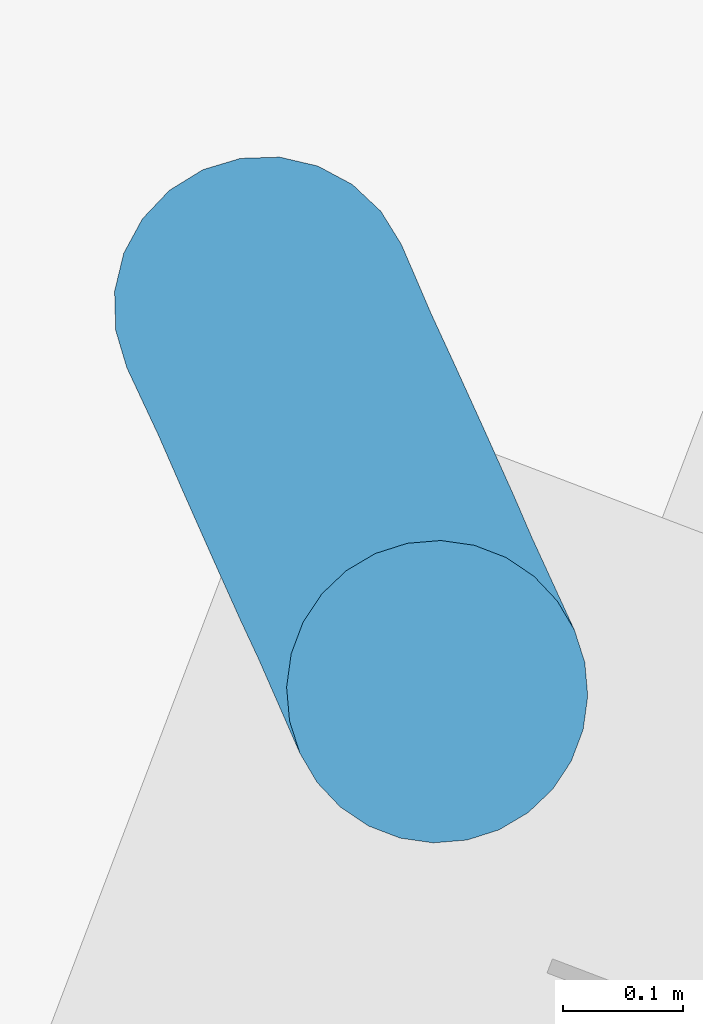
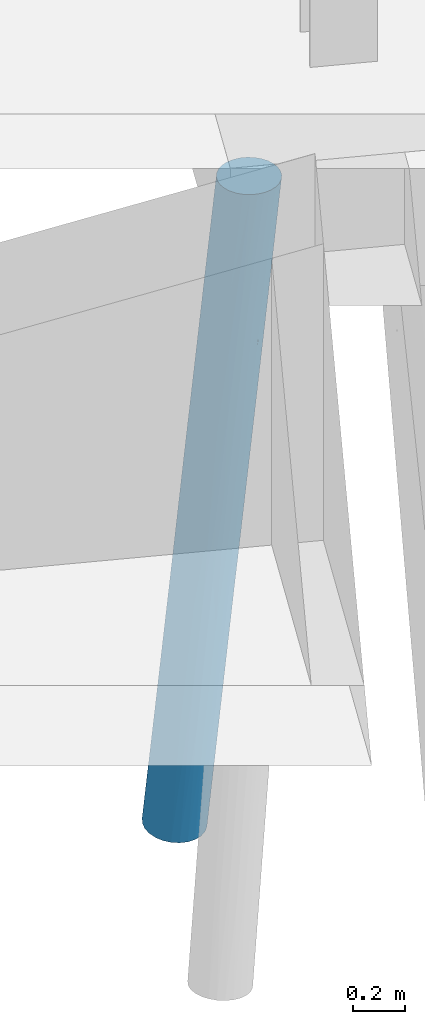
# One storey, part 12 of 46: 1 pile.
"""IFC2X3 building model written with IfcOpenShell, lengths in millimetres."""

from ifc_helpers import new_model, entity, si_unit, converted_unit, derived_unit, direction, frame, origin, place, context, subcontext, project, spatial, faceted_brep, source, transform, mapped, material, type_object, type_shapes, element, save


model = new_model("IFC2X3")

# Units and contexts
model_context = context("Model", 3, precision=0.01, world=origin(), true_north=direction((6.123233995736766e-17, 1.0)))
body_context = subcontext(model_context, "Body", "Model", "MODEL_VIEW")
ifc_project = project(units=[si_unit("LENGTHUNIT", "METRE", prefix="MILLI"), converted_unit("PLANEANGLEUNIT", "DEGREE", entity("IfcPlaneAngleMeasure", 0.017453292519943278), si_unit("PLANEANGLEUNIT", "RADIAN"), dimensions=[0, 0, 0, 0, 0, 0, 0]), si_unit("AREAUNIT", "SQUARE_METRE"), derived_unit("THERMALTRANSMITTANCEUNIT", [(si_unit("MASSUNIT", "GRAM", prefix="KILO"), 1), (si_unit("THERMODYNAMICTEMPERATUREUNIT", "KELVIN"), -1), (si_unit("TIMEUNIT", "SECOND"), -3)])], contexts=[model_context])

# Site, building, storey
site_placement = place(None, frame((-72937.88054949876, 11621.45624098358, 0.0), z_axis=(0.0, 0.0, 1.0), x_axis=(0.9346418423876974, -0.35559053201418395, 0.0)))
site = spatial("IfcSite", under=ifc_project, at=site_placement, Name="Default", CompositionType="ELEMENT")
building_placement = place(site_placement, origin())
building = spatial("IfcBuilding", under=site, at=building_placement, CompositionType="ELEMENT")
storey_placement = place(building_placement, origin())
storey = spatial("IfcBuildingStorey", under=building, at=storey_placement, Name="00 begane grond", CompositionType="ELEMENT", Elevation=0.0)

# Pile
ifc_material = material(Name="beton_gewapend_prefab-element_c45/55")
type_product = type_object("IfcTypeProduct", Name="Type 01", material=ifc_material)
shared_shape = source(origin(), body_context, "Body", "Brep", [
    faceted_brep([(-21.492869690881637, -34.07967924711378, -2142.478153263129), (41.770052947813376, 0.0, -1615.9926657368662), (50.02983679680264, -41.219149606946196, -1478.3429510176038), (-120.39371842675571, -27.815116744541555, -840.0), (-209.76851175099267, 0.0, -1615.9934634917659), (-196.5141812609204, -41.35907440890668, -1560.4595682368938), (-88.87736384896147, -91.39060439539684, -2432.143714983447), (-29.01608810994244, -89.9027707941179, -1907.5825387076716), (-105.46135978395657, -105.60554685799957, -2414.744852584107), (115.53639022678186, -54.235467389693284, -840.0), (100.55257203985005, -77.93622523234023, -840.0), (44.04069234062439, -66.4881713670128, -1422.150587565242), (-241.29781855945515, -62.499999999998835, -4011.9545633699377), (-228.8866429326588, -32.35238063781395, -4013.333582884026), (-181.63351961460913, -47.83542906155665, -3540.4622999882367), (127.99146025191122, 0.0, -840.0), (124.838162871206, -27.815116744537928, -840.0), (56.79144948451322, -112.62110848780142, -840.0), (-1.0422673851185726, -115.29700921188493, -1306.634534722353), (80.6380595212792, -97.7289353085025, -840.0), (-148.00042706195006, -121.55050259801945, -1927.9224619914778), (-119.59016639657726, -124.7753227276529, -1868.475336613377), (-82.66188090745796, -124.23733970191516, -1479.1096584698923), (2.222222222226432, -125.0, -840.0), (-25.764066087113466, -121.86598902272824, -840.0), (35.238837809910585, -88.30507823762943, -1343.9943162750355), (-38.428481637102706, -123.46402257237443, -1382.7576650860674), (30.208510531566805, -121.86598902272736, -840.0), (-105.46067851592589, -124.17311504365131, -1939.1271630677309), (-121.64165871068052, -118.88184081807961, -2304.5646505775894), (-59.29822656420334, -117.91120533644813, -1769.4495348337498), (-224.65342205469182, 0.0, -4013.803940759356), (-181.5427184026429, 0.0, -3625.8076078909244), (-187.86059930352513, -76.09517863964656, -3448.7603995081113), (-111.16783038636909, -79.40373738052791, -2734.720867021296), (-186.42266103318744, -99.1691675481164, -3226.87509877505), (-381.04339378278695, -120.74072828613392, -3996.4272772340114), (-348.8888888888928, -125.0, -4000.0), (-294.25946310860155, -123.9306076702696, -3360.589550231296), (-119.53291308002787, -47.835429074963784, -2981.55684112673), (-105.13946974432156, -22.11026756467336, -2920.330251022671), (-71.50265177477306, -37.61355729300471, -2582.985799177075), (-160.26870491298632, -23.53094104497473, -3414.1045295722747), (-286.7711554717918, -108.25317547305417, -4006.901970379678), (-238.88036705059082, -115.48494156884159, -3443.09153660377), (-261.04114782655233, -88.38834764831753, -4009.7608601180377), (-316.7343839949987, -120.74072828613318, -4003.5727227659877), (-84.00174733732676, -60.02171841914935, -2608.908596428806), (-61.65923548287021, -74.64816535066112, -2322.8523974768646), (-173.2739820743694, -115.31995815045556, -2856.223431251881), (-151.97718420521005, -123.99260475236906, -2371.2114813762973), (-123.54701580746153, 0.0, -840.0), (-250.82857575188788, -22.617884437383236, -2004.2180489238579), (-295.9900076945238, 0.0, -2391.986926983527), (-52.347005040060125, -112.6211084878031, -840.0), (-76.19361507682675, -97.72893530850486, -840.0), (-107.44397040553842, -105.89787173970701, -1225.6035634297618), (-281.4812245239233, -123.93060767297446, -3541.076638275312), (-109.06614769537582, -117.5733672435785, -1457.2474766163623), (-111.0919457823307, -54.235467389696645, -840.0), (-15.85514051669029, -105.72630914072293, -1606.5585830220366), (-146.68659472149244, -88.47759853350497, -1380.5978408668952), (-158.7756678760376, -105.96661342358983, -1688.5825591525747), (-348.5966640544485, -22.310072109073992, -2883.621631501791), (-384.5571817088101, 0.0, -3189.0914931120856), (-404.9818286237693, -23.95962394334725, -3393.9013620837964), (-416.2874807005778, -47.83542904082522, -3560.826702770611), (-468.89113484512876, -32.35238063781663, -3986.6664171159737), (-456.47995921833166, -62.500000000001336, -3988.0454366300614), (-337.6622645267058, -115.48494156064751, -3465.7921474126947), (-411.00662230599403, -108.25317547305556, -3993.0980296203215), (-255.6918544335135, -84.13968982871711, -2324.129304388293), (-241.96823570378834, -100.09571921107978, -2359.7174741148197), (-204.57839676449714, -89.69967503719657, -1912.8684599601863), (-96.10812759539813, -77.93622523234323, -840.0), (-436.73662995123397, -88.38834764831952, -3990.239139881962), (-377.92930595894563, -99.16916753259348, -3572.292603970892), (-206.96183482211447, -60.377923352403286, -1731.5361763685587), (-358.429549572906, -47.83542903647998, -3040.1053226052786), (-296.17437932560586, -43.53585544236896, -2464.518236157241), (-379.61635653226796, -76.09517861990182, -3378.5322028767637), (-430.0136077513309, 0.0, -3598.199327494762), (-306.35511538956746, -77.61365432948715, -2729.9013330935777), (-213.4617402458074, -118.14633713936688, -2411.4959163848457), (-159.2186646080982, -65.41382269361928, -1328.4086999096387), (-67.97340634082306, -109.92592992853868, -2010.6352011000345), (-179.43548008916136, -124.76102802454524, -2404.9604566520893), (-13.219750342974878, -66.34050229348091, -1938.3332116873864), (-236.17409644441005, -124.51562049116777, -2886.015168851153), (-268.30597333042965, -110.23172722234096, -2741.026078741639), (-270.10864031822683, -119.49229851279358, -2958.6820679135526), (-320.7170568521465, -99.16916752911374, -3057.382361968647), (-473.12435572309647, 0.0, -3986.1960592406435), (-138.91569201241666, -99.37675608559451, -2796.855638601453), (-220.46267944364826, -123.93060767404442, -2991.9097324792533), (-44.45135435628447, 0.0, -2391.9853314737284), (-247.15908292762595, -66.69543969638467, -2127.0964328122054), (-134.55238820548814, 0.0, -3202.894636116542), (-89.50217198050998, 0.0, -2797.4426900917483), (-303.09738986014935, -21.900839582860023, -2473.4623287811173), (-340.273594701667, 0.0, -2790.539210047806), (-246.59414544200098, -45.75852255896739, -2025.9931784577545), (124.83816287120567, 27.815116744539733, -840.0), (115.53639022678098, 54.23546738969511, -840.0), (100.55257203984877, 77.93622523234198, -840.0), (80.63805952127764, 97.72893530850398, -840.0), (56.7914494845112, 112.62110848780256, -840.0), (30.20851053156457, 121.86598902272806, -840.0), (2.222222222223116, 125.0, -840.0), (-25.764066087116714, 121.86598902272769, -840.0), (-52.3470050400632, 112.62110848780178, -840.0), (-76.19361507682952, 97.72893530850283, -840.0), (-96.1081275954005, 77.93622523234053, -840.0), (-111.09194578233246, 54.23546738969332, -840.0), (-120.39371842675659, 27.815116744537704, -840.0), (-213.46174017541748, 118.14633716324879, -2411.4959163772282), (-268.3059732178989, 110.23172722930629, -2741.0260778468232), (-241.96823566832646, 100.09571920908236, -2359.717473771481), (-187.14229973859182, 67.59575846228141, -1592.137482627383), (-196.5141812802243, 41.359074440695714, -1560.4595685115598), (-82.66188086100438, 124.23733970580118, -1479.1096583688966), (-29.016087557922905, 89.90277069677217, -1907.5825346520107), (35.23883807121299, 88.30507821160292, -1343.9943141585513), (-13.219750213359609, 66.3405022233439, -1938.3332109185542), (-109.06614766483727, 117.57336725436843, -1457.2474766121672), (-381.04339378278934, 120.74072828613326, -3996.4272772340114), (-337.6622645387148, 115.48494156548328, -3465.7921476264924), (-294.2594631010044, 123.93060767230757, -3360.5895503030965), (-377.9293059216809, 99.16916753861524, -3572.292603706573), (-379.61635651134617, 76.09517863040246, -3378.53220276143), (-320.717056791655, 99.16916754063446, -3057.382361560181), (-286.77115547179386, 108.25317547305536, -4006.901970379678), (-238.88036707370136, 115.48494156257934, -3443.0915369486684), (-186.42266103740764, 99.16916753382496, -3226.875098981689), (-241.29781855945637, 62.50000000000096, -4011.9545633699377), (-181.63351956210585, 47.835429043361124, -3540.4622995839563), (-228.88664293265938, 32.352380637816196, -4013.333582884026), (-107.44397039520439, 105.89787175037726, -1225.6035634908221), (-38.428481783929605, 123.46402262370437, -1382.7576634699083), (-468.89113484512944, 32.35238063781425, -3986.6664171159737), (-173.2739821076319, 115.31995832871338, -2856.223427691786), (-138.91569233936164, 99.37675620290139, -2796.855640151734), (-160.26870486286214, 23.530941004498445, -3414.104529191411), (-261.041147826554, 88.38834764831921, -4009.7608601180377), (-187.86059935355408, 76.09517862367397, -3448.760400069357), (-306.35511542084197, 77.61365434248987, -2729.9013334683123), (-348.8888888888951, 125.0, -4000.0), (-456.47995921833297, 62.49999999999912, -3988.0454366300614), (-416.2874806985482, 47.83542904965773, -3560.826702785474), (-411.0066223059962, 108.25317547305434, -3993.0980296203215), (-436.7366299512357, 88.38834764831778, -3990.239139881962), (-84.00174724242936, 60.02171839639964, -2608.9085956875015), (-21.492869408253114, 34.07967918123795, -2142.4781508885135), (-71.50265159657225, 37.613557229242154, -2582.9857977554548), (-220.46267940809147, 123.93060767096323, -2991.909732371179), (-281.48122449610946, 123.9306076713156, -3541.07663813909), (-148.0004270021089, 121.5505026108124, -1927.922461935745), (-158.7756678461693, 105.9666134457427, -1688.5825592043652), (-15.85514048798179, 105.72630911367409, -1606.5585831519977), (-59.298225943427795, 117.91120535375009, -1769.449528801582), (-1.0422669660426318, 115.29700910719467, -1306.634533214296), (-270.1086403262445, 119.49229851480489, -2958.682068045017), (50.02983688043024, 41.21914955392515, -1478.342950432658), (-146.6865947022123, 88.47759855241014, -1380.5978408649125), (-358.42954957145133, 47.83542905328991, -3040.1053226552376), (-348.59666404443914, 22.310072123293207, -2883.6216314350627), (-296.1743793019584, 43.535855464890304, -2464.5182360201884), (57.21126448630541, 65.80573689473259, -1307.4694469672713), (-121.64165783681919, 118.88184074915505, -2304.564644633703), (-67.97340649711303, 109.92593000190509, -2010.6352012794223), (-105.13946990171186, 22.110267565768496, -2920.330252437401), (-179.4354799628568, 124.7610280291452, -2404.960456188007), (-316.73438399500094, 120.7407282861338, -4003.5727227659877), (-119.53291301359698, 47.8354290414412, -2981.5568406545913), (-250.82857577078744, 22.617884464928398, -2004.2180491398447), (-404.98182862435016, 23.959623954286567, -3393.9013621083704), (-61.65923550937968, 74.64816548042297, -2322.852396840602), (-243.17628094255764, 45.971171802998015, -1995.991919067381), (-105.46135971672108, 105.60554680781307, -2414.7448526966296), (-111.16783063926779, 79.40373735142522, -2734.7208695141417), (-119.59016630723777, 124.7753227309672, -1868.4753363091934), (-236.17409637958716, 124.515620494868, -2886.0151686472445), (-204.5783966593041, 89.69967507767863, -1912.8684593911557), (-247.1590829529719, 66.69543974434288, -2127.0964333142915), (-88.87736442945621, 91.39060438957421, -2432.1437202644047), (-255.69185439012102, 84.13968979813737, -2324.1293037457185), (-168.1781585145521, 123.85607816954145, -2526.387901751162), (-105.46067843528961, 124.17311503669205, -1939.1271628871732), (-303.0973898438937, 21.90083960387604, -2473.4623286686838)], [[[0, 1, 2]], [[3, 4, 5]], [[6, 7, 8]], [[9, 10, 11]], [[12, 13, 14]], [[1, 15, 16]], [[17, 18, 19]], [[20, 21, 22]], [[22, 23, 24]], [[10, 19, 25]], [[26, 18, 27]], [[23, 22, 26]], [[28, 29, 30]], [[13, 31, 32]], [[33, 34, 35]], [[36, 37, 38]], [[39, 40, 41]], [[14, 42, 39]], [[43, 35, 44]], [[33, 35, 45]], [[43, 44, 46]], [[47, 48, 34]], [[49, 29, 50]], [[3, 51, 4]], [[30, 26, 28]], [[52, 4, 53]], [[54, 55, 56]], [[57, 38, 37]], [[58, 24, 54]], [[57, 37, 46]], [[3, 5, 59]], [[2, 16, 9]], [[4, 52, 5]], [[25, 60, 7]], [[45, 35, 43]], [[61, 62, 56]], [[63, 64, 65]], [[66, 67, 68]], [[69, 36, 38]], [[36, 69, 70]], [[71, 72, 73]], [[61, 55, 74]], [[75, 70, 76]], [[61, 77, 73]], [[63, 78, 79]], [[75, 76, 80]], [[64, 81, 65]], [[78, 80, 82]], [[75, 80, 68]], [[72, 83, 62]], [[5, 84, 59]], [[29, 8, 85]], [[11, 10, 25]], [[28, 21, 86]], [[45, 12, 33]], [[49, 44, 35]], [[58, 54, 56]], [[22, 58, 20]], [[0, 2, 87]], [[1, 16, 2]], [[88, 86, 83]], [[39, 42, 40]], [[89, 69, 90]], [[74, 59, 84]], [[62, 73, 72]], [[82, 80, 91]], [[66, 80, 78]], [[14, 33, 12]], [[67, 81, 92]], [[34, 33, 39]], [[39, 41, 47]], [[34, 6, 93]], [[35, 93, 49]], [[57, 44, 94]], [[90, 69, 38]], [[76, 69, 91]], [[34, 39, 47]], [[1, 0, 95]], [[72, 82, 91]], [[82, 96, 79]], [[72, 91, 89]], [[62, 61, 73]], [[32, 42, 13]], [[33, 14, 39]], [[44, 57, 46]], [[38, 57, 94]], [[42, 32, 97]], [[42, 97, 40]], [[13, 42, 14]], [[40, 97, 98, 95]], [[41, 95, 0]], [[61, 56, 55]], [[58, 56, 62]], [[20, 62, 83]], [[24, 58, 22]], [[62, 20, 58]], [[20, 83, 86]], [[83, 90, 88]], [[28, 50, 29]], [[90, 38, 88]], [[89, 90, 83]], [[95, 41, 40]], [[47, 0, 87]], [[0, 47, 41]], [[48, 47, 87]], [[7, 48, 87]], [[6, 34, 48]], [[87, 2, 11]], [[7, 60, 85]], [[60, 25, 19]], [[11, 7, 87]], [[7, 6, 48]], [[93, 6, 8]], [[93, 8, 49]], [[34, 93, 35]], [[29, 49, 8]], [[94, 44, 49]], [[30, 85, 60]], [[28, 86, 50]], [[18, 30, 60]], [[18, 26, 30]], [[23, 26, 27]], [[21, 26, 22]], [[19, 18, 60]], [[18, 17, 27]], [[77, 61, 84]], [[71, 96, 82]], [[72, 89, 83]], [[69, 89, 91]], [[38, 94, 88]], [[50, 88, 94]], [[80, 66, 68]], [[65, 67, 66]], [[78, 63, 65]], [[67, 65, 81]], [[78, 65, 66]], [[78, 82, 79]], [[99, 100, 63]], [[79, 101, 52]], [[99, 63, 79]], [[69, 76, 70]], [[80, 76, 91]], [[96, 71, 73]], [[82, 72, 71]], [[29, 85, 30]], [[7, 85, 8]], [[99, 52, 53]], [[101, 79, 96]], [[77, 84, 5]], [[74, 84, 61]], [[86, 21, 20]], [[26, 21, 28]], [[9, 11, 2]], [[7, 11, 25]], [[88, 50, 86]], [[49, 50, 94]], [[52, 99, 79]], [[100, 64, 63]], [[100, 99, 53]], [[77, 101, 96]], [[5, 52, 101]], [[101, 77, 5]], [[73, 77, 96]], [[24, 23, 27, 17, 19, 10, 9, 16, 15, 102, 103, 104, 105, 106, 107, 108, 109, 110, 111, 112, 113, 114, 51, 3, 59, 74, 55, 54]], [[51, 114, 4]], [[115, 116, 117]], [[118, 113, 112]], [[119, 114, 113]], [[120, 109, 108]], [[121, 122, 123]], [[120, 124, 109]], [[125, 126, 127]], [[128, 129, 130]], [[131, 132, 133]], [[134, 135, 136]], [[137, 111, 110]], [[138, 108, 107]], [[139, 92, 81]], [[140, 141, 133]], [[142, 97, 32]], [[143, 133, 144]], [[130, 129, 145]], [[146, 125, 127]], [[147, 139, 148]], [[149, 150, 128]], [[151, 152, 153]], [[154, 155, 127]], [[124, 156, 157]], [[158, 159, 160]], [[4, 114, 119]], [[160, 107, 106]], [[161, 127, 126]], [[103, 102, 162]], [[158, 160, 105]], [[111, 137, 163]], [[164, 165, 166]], [[105, 104, 122]], [[102, 15, 1]], [[167, 103, 162]], [[167, 123, 122]], [[168, 159, 169]], [[170, 97, 142]], [[115, 156, 171]], [[155, 172, 146]], [[163, 118, 112]], [[169, 159, 158]], [[111, 163, 112]], [[143, 131, 133]], [[130, 145, 117]], [[134, 143, 144]], [[123, 162, 152]], [[129, 150, 147]], [[173, 151, 153]], [[119, 174, 4]], [[148, 175, 164]], [[121, 123, 176]], [[166, 174, 177]], [[140, 168, 178]], [[131, 172, 132]], [[144, 179, 173]], [[171, 156, 180]], [[124, 157, 137]], [[102, 1, 162]], [[152, 1, 95]], [[125, 149, 126]], [[136, 32, 31]], [[115, 181, 161]], [[182, 157, 117]], [[118, 183, 177]], [[148, 129, 147]], [[164, 166, 145]], [[155, 132, 172]], [[164, 175, 165]], [[141, 140, 178]], [[179, 144, 133]], [[135, 144, 173]], [[178, 184, 141]], [[151, 176, 123]], [[128, 126, 149]], [[161, 116, 115]], [[1, 152, 162]], [[95, 170, 153]], [[164, 145, 129]], [[163, 157, 182]], [[185, 183, 182]], [[115, 117, 157]], [[144, 135, 134]], [[142, 136, 135]], [[127, 155, 146]], [[132, 155, 154]], [[173, 170, 142]], [[136, 142, 32]], [[173, 142, 135]], [[153, 170, 173]], [[170, 95, 98, 97]], [[110, 109, 124]], [[163, 137, 157]], [[124, 137, 110]], [[156, 124, 120]], [[180, 156, 120]], [[157, 156, 115]], [[186, 187, 168]], [[161, 181, 127]], [[116, 126, 130]], [[181, 115, 171]], [[173, 179, 151]], [[95, 153, 152]], [[176, 151, 179]], [[152, 151, 123]], [[179, 184, 176]], [[178, 169, 121]], [[121, 176, 184]], [[158, 105, 122]], [[103, 167, 104]], [[158, 122, 121]], [[141, 179, 133]], [[121, 184, 178]], [[179, 141, 184]], [[140, 133, 132]], [[132, 154, 140]], [[181, 186, 154]], [[186, 140, 154]], [[168, 187, 159]], [[138, 159, 187]], [[107, 160, 138]], [[180, 138, 187]], [[108, 138, 120]], [[138, 160, 159]], [[105, 160, 106]], [[185, 182, 117]], [[118, 182, 183]], [[126, 116, 161]], [[117, 116, 130]], [[186, 181, 171]], [[154, 127, 181]], [[81, 175, 139]], [[129, 148, 164]], [[175, 81, 64]], [[175, 64, 165]], [[139, 175, 148]], [[165, 64, 100]], [[166, 183, 145]], [[165, 188, 166]], [[174, 53, 4]], [[129, 128, 150]], [[126, 128, 130]], [[117, 145, 185]], [[183, 185, 145]], [[121, 169, 158]], [[168, 169, 178]], [[177, 174, 119]], [[188, 174, 166]], [[113, 118, 119]], [[182, 118, 163]], [[138, 180, 120]], [[171, 180, 187]], [[123, 167, 162]], [[104, 167, 122]], [[187, 186, 171]], [[140, 186, 168]], [[100, 188, 165]], [[188, 100, 53]], [[174, 188, 53]], [[118, 177, 119]], [[166, 177, 183]], [[146, 172, 131, 143, 134, 136, 31, 13, 12, 45, 43, 46, 37, 36, 70, 75, 68, 67, 92, 139, 147, 150, 149, 125]]]),
])
type_shapes(type_product, [shared_shape])
pile_placement = place(storey_placement, frame((57270.0, 22180.0, 0.0), z_axis=(0.0, 0.0, 1.0), x_axis=(0.7071067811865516, -0.7071067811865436, 0.0)))
element("IfcPile", 1, at=pile_placement, inside=storey, type_object=type_product, material=ifc_material, Name="17.21_Prefab funderingspaal rond", ObjectType="prefab paal rond", PredefinedType="NOTDEFINED", context=body_context, shape_type="MappedRepresentation", body=[
    mapped(shared_shape, transform((0.0, 0.0, 0.0), scale=1.0)),
])

save(model, "model.ifc")
